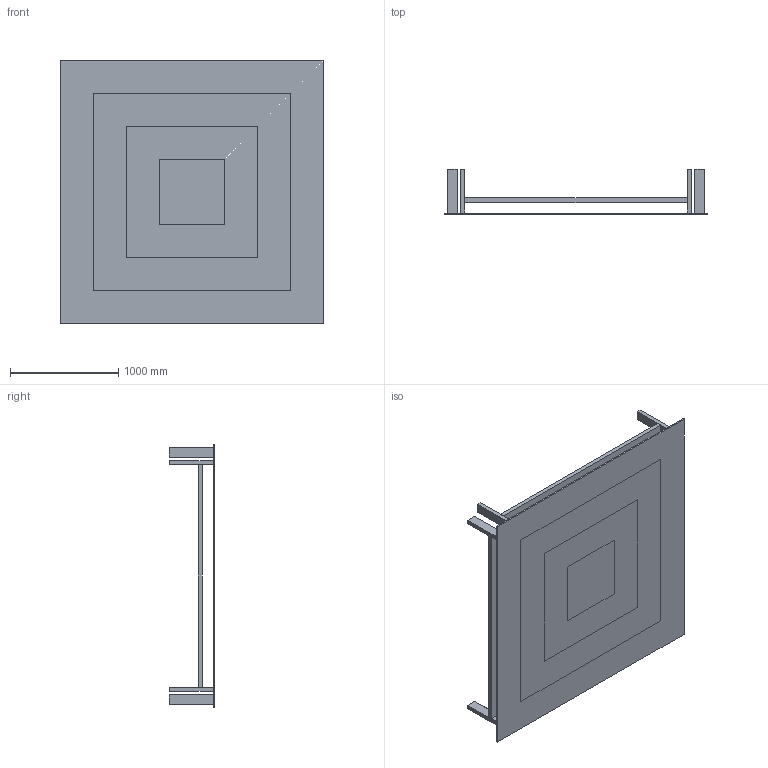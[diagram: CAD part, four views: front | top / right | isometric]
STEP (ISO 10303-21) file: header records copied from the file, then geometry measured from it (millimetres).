
FILE_DESCRIPTION(/* description */ (''),/* implementation_level */ '2;1');
FILE_NAME(/* name */ 'Curling.stp',/* time_stamp */ '2024-10-17T18:30:47-04:00',/* author */ ('nicks'),/* organization */ (''),/* preprocessor_version */ 'ST-DEVELOPER v20',/* originating_system */ 'Autodesk Inventor 2024',/* authorisation */ '');
FILE_SCHEMA (('AUTOMOTIVE_DESIGN { 1 0 10303 214 3 1 1 }'));
Length unit declared in the file: inch
Products named in the file (7): Curling; Curling Floor 1; Curling Floor 2; Curling Floor 3; Curling Floor 4; 2 X 4 X 16; 2 X 4 X 81
Assembly tree (16 placements, depth 2):
  Curling
    Curling Floor 1
    Curling Floor 2
    Curling Floor 3
    Curling Floor 4
    2 X 4 X 16  x8
    2 X 4 X 81  x4
Bounding box: 2438.4 x 419.1 x 2438.4 mm (x, y, z)
Volume: 114398093.8 mm3; surface area: 15384485.4 mm2
Topology: 16 solids, 16 shells, 108 faces, 228 edges, 156 vertices
Faces by surface type: plane 108
Entity records: 1771 total; most frequent: CARTESIAN_POINT 256, DIRECTION 252, ORIENTED_EDGE 216, LINE 108, VECTOR 108, EDGE_CURVE 108, VERTEX_POINT 72, AXIS2_PLACEMENT_3D 72
